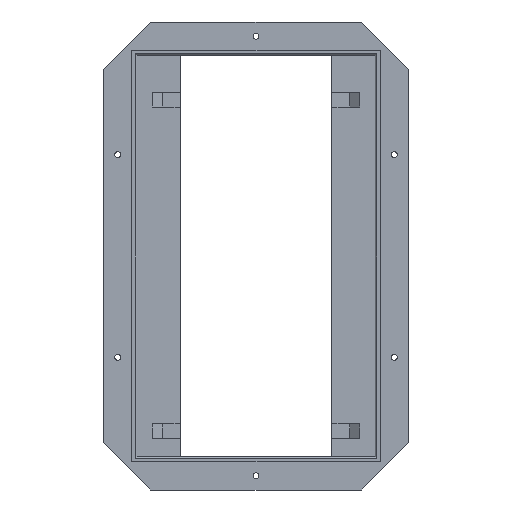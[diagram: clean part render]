
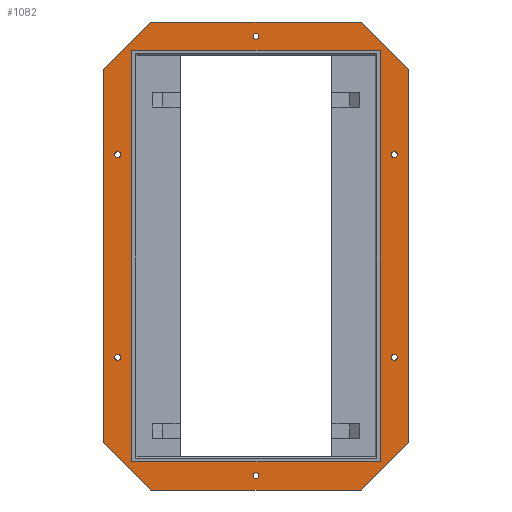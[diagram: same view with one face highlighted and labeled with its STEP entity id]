
A CAD part, front view. The second image highlights one B-rep face of the part: STEP entity #1082.
In plain terms, the highlighted planar face has unit normal (0, -1, 0).
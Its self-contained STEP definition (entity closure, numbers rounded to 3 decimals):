
#37=FACE_BOUND('',#186,.T.);
#38=FACE_BOUND('',#187,.T.);
#39=FACE_BOUND('',#188,.T.);
#40=FACE_BOUND('',#189,.T.);
#41=FACE_BOUND('',#190,.T.);
#42=FACE_BOUND('',#191,.T.);
#43=FACE_BOUND('',#192,.T.);
#54=CIRCLE('',#1115,1.25);
#55=CIRCLE('',#1117,1.25);
#56=CIRCLE('',#1119,1.25);
#57=CIRCLE('',#1121,1.25);
#58=CIRCLE('',#1123,1.25);
#59=CIRCLE('',#1125,1.25);
#116=FACE_OUTER_BOUND('',#185,.T.);
#185=EDGE_LOOP('',(#949,#950,#951,#952,#953,#954,#955,#956));
#186=EDGE_LOOP('',(#957));
#187=EDGE_LOOP('',(#958));
#188=EDGE_LOOP('',(#959));
#189=EDGE_LOOP('',(#960));
#190=EDGE_LOOP('',(#961));
#191=EDGE_LOOP('',(#962));
#192=EDGE_LOOP('',(#963,#964,#965,#966));
#197=LINE('',#1452,#323);
#203=LINE('',#1463,#329);
#214=LINE('',#1506,#340);
#217=LINE('',#1511,#343);
#218=LINE('',#1514,#344);
#221=LINE('',#1519,#347);
#222=LINE('',#1522,#348);
#314=LINE('',#1730,#440);
#315=LINE('',#1734,#441);
#316=LINE('',#1736,#442);
#317=LINE('',#1738,#443);
#318=LINE('',#1739,#444);
#323=VECTOR('',#1170,10.);
#329=VECTOR('',#1178,10.);
#340=VECTOR('',#1213,10.);
#343=VECTOR('',#1218,10.);
#344=VECTOR('',#1221,10.);
#347=VECTOR('',#1226,10.);
#348=VECTOR('',#1229,10.);
#440=VECTOR('',#1429,10.);
#441=VECTOR('',#1432,10.);
#442=VECTOR('',#1433,10.);
#443=VECTOR('',#1434,10.);
#444=VECTOR('',#1435,10.);
#449=VERTEX_POINT('',#1450);
#450=VERTEX_POINT('',#1451);
#454=VERTEX_POINT('',#1461);
#474=VERTEX_POINT('',#1505);
#475=VERTEX_POINT('',#1509);
#476=VERTEX_POINT('',#1513);
#477=VERTEX_POINT('',#1517);
#478=VERTEX_POINT('',#1521);
#496=VERTEX_POINT('',#1573);
#497=VERTEX_POINT('',#1577);
#498=VERTEX_POINT('',#1581);
#499=VERTEX_POINT('',#1585);
#500=VERTEX_POINT('',#1589);
#501=VERTEX_POINT('',#1593);
#541=VERTEX_POINT('',#1732);
#542=VERTEX_POINT('',#1733);
#543=VERTEX_POINT('',#1735);
#544=VERTEX_POINT('',#1737);
#545=EDGE_CURVE('',#449,#450,#197,.T.);
#551=EDGE_CURVE('',#449,#454,#203,.F.);
#572=EDGE_CURVE('',#474,#454,#214,.T.);
#575=EDGE_CURVE('',#474,#475,#217,.F.);
#576=EDGE_CURVE('',#476,#475,#218,.T.);
#579=EDGE_CURVE('',#476,#477,#221,.F.);
#580=EDGE_CURVE('',#478,#477,#222,.T.);
#606=EDGE_CURVE('',#496,#496,#54,.T.);
#608=EDGE_CURVE('',#497,#497,#55,.T.);
#610=EDGE_CURVE('',#498,#498,#56,.T.);
#612=EDGE_CURVE('',#499,#499,#57,.T.);
#614=EDGE_CURVE('',#500,#500,#58,.T.);
#616=EDGE_CURVE('',#501,#501,#59,.T.);
#682=EDGE_CURVE('',#478,#450,#314,.F.);
#683=EDGE_CURVE('',#541,#542,#315,.F.);
#684=EDGE_CURVE('',#543,#541,#316,.F.);
#685=EDGE_CURVE('',#544,#543,#317,.F.);
#686=EDGE_CURVE('',#542,#544,#318,.F.);
#949=ORIENTED_EDGE('',*,*,#545,.F.);
#950=ORIENTED_EDGE('',*,*,#551,.T.);
#951=ORIENTED_EDGE('',*,*,#572,.F.);
#952=ORIENTED_EDGE('',*,*,#575,.T.);
#953=ORIENTED_EDGE('',*,*,#576,.F.);
#954=ORIENTED_EDGE('',*,*,#579,.T.);
#955=ORIENTED_EDGE('',*,*,#580,.F.);
#956=ORIENTED_EDGE('',*,*,#682,.T.);
#957=ORIENTED_EDGE('',*,*,#606,.T.);
#958=ORIENTED_EDGE('',*,*,#608,.T.);
#959=ORIENTED_EDGE('',*,*,#610,.T.);
#960=ORIENTED_EDGE('',*,*,#612,.T.);
#961=ORIENTED_EDGE('',*,*,#614,.T.);
#962=ORIENTED_EDGE('',*,*,#616,.T.);
#963=ORIENTED_EDGE('',*,*,#683,.F.);
#964=ORIENTED_EDGE('',*,*,#684,.F.);
#965=ORIENTED_EDGE('',*,*,#685,.F.);
#966=ORIENTED_EDGE('',*,*,#686,.F.);
#1025=PLANE('',#1161);
#1082=ADVANCED_FACE('',(#116,#37,#38,#39,#40,#41,#42,#43),#1025,.F.);
#1115=AXIS2_PLACEMENT_3D('',#1574,#1271,#1272);
#1117=AXIS2_PLACEMENT_3D('',#1578,#1276,#1277);
#1119=AXIS2_PLACEMENT_3D('',#1582,#1281,#1282);
#1121=AXIS2_PLACEMENT_3D('',#1586,#1286,#1287);
#1123=AXIS2_PLACEMENT_3D('',#1590,#1291,#1292);
#1125=AXIS2_PLACEMENT_3D('',#1594,#1296,#1297);
#1161=AXIS2_PLACEMENT_3D('',#1731,#1430,#1431);
#1170=DIRECTION('',(-0.707,0.,0.707));
#1178=DIRECTION('',(-1.,0.,0.));
#1213=DIRECTION('',(-0.707,0.,-0.707));
#1218=DIRECTION('',(0.,0.,-1.));
#1221=DIRECTION('',(0.707,0.,-0.707));
#1226=DIRECTION('',(1.,0.,0.));
#1229=DIRECTION('',(0.707,0.,0.707));
#1271=DIRECTION('center_axis',(0.,1.,0.));
#1272=DIRECTION('ref_axis',(1.,0.,0.));
#1276=DIRECTION('center_axis',(0.,1.,0.));
#1277=DIRECTION('ref_axis',(1.,0.,0.));
#1281=DIRECTION('center_axis',(0.,1.,0.));
#1282=DIRECTION('ref_axis',(1.,0.,0.));
#1286=DIRECTION('center_axis',(0.,1.,0.));
#1287=DIRECTION('ref_axis',(1.,0.,0.));
#1291=DIRECTION('center_axis',(0.,1.,0.));
#1292=DIRECTION('ref_axis',(1.,0.,0.));
#1296=DIRECTION('center_axis',(0.,1.,0.));
#1297=DIRECTION('ref_axis',(1.,0.,0.));
#1429=DIRECTION('',(0.,0.,1.));
#1430=DIRECTION('center_axis',(0.,1.,0.));
#1431=DIRECTION('ref_axis',(0.,0.,1.));
#1432=DIRECTION('',(0.,0.,1.));
#1433=DIRECTION('',(1.,0.,0.));
#1434=DIRECTION('',(0.,0.,-1.));
#1435=DIRECTION('',(-1.,0.,0.));
#1450=CARTESIAN_POINT('',(-44.355,11.2,-94.84));
#1451=CARTESIAN_POINT('',(-64.355,11.2,-74.84));
#1452=CARTESIAN_POINT('',(-62.96,11.2,-76.235));
#1461=CARTESIAN_POINT('',(44.355,11.2,-94.84));
#1463=CARTESIAN_POINT('',(-32.178,11.2,-94.84));
#1505=CARTESIAN_POINT('',(64.355,11.2,-74.84));
#1506=CARTESIAN_POINT('',(62.96,11.2,-76.235));
#1509=CARTESIAN_POINT('',(64.355,11.2,82.71));
#1511=CARTESIAN_POINT('',(64.355,11.2,-45.453));
#1513=CARTESIAN_POINT('',(44.355,11.2,102.71));
#1514=CARTESIAN_POINT('',(62.96,11.2,84.105));
#1517=CARTESIAN_POINT('',(-44.355,11.2,102.71));
#1519=CARTESIAN_POINT('',(32.178,11.2,102.71));
#1521=CARTESIAN_POINT('',(-64.355,11.2,82.71));
#1522=CARTESIAN_POINT('',(-62.96,11.2,84.105));
#1573=CARTESIAN_POINT('',(57.105,11.2,-38.84));
#1574=CARTESIAN_POINT('Origin',(58.355,11.2,-38.84));
#1577=CARTESIAN_POINT('',(-1.25,11.2,96.71));
#1578=CARTESIAN_POINT('Origin',(0.,11.2,96.71));
#1581=CARTESIAN_POINT('',(-59.605,11.2,-38.84));
#1582=CARTESIAN_POINT('Origin',(-58.355,11.2,-38.84));
#1585=CARTESIAN_POINT('',(57.105,11.2,46.71));
#1586=CARTESIAN_POINT('Origin',(58.355,11.2,46.71));
#1589=CARTESIAN_POINT('',(-59.605,11.2,46.71));
#1590=CARTESIAN_POINT('Origin',(-58.355,11.2,46.71));
#1593=CARTESIAN_POINT('',(-1.25,11.2,-88.84));
#1594=CARTESIAN_POINT('Origin',(0.,11.2,-88.84));
#1730=CARTESIAN_POINT('',(-64.355,11.2,53.323));
#1731=CARTESIAN_POINT('Origin',(0.,11.2,3.935));
#1732=CARTESIAN_POINT('',(-52.355,11.2,90.71));
#1733=CARTESIAN_POINT('',(-52.355,11.2,-82.84));
#1734=CARTESIAN_POINT('',(-52.355,11.2,-39.453));
#1735=CARTESIAN_POINT('',(52.355,11.2,90.71));
#1736=CARTESIAN_POINT('',(-26.178,11.2,90.71));
#1737=CARTESIAN_POINT('',(52.355,11.2,-82.84));
#1738=CARTESIAN_POINT('',(52.355,11.2,47.323));
#1739=CARTESIAN_POINT('',(26.178,11.2,-82.84));
